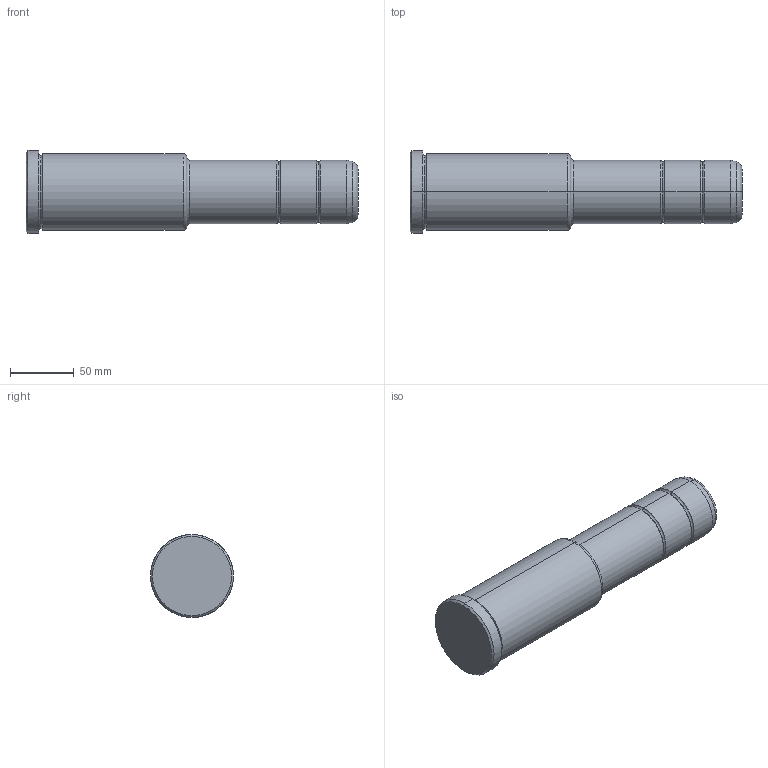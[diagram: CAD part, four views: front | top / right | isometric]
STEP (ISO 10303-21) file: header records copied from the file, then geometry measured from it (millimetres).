
FILE_DESCRIPTION(('CATIA V5 STEP Exchange'),'2;1');
FILE_NAME('C:\Users\Utente\Desktop\IO LAVORO\3D X SITO CF\X SITO\PLASTICA\351\351-50X126X260.stp','2021-11-03T19:42:58+00:00',('none'),('none'),'CATIA Version 5 Release 20 GA (IN-10)','CATIA V5 STEP AP203','none');
FILE_SCHEMA(('CONFIG_CONTROL_DESIGN'));
Length unit declared in the file: millimetre
Products named in the file (1): 351-50X126X260
Bounding box: 260 x 65 x 65 mm (x, y, z)
Volume: 619887.3 mm3; surface area: 51223 mm2
Topology: 1 solids, 1 shells, 35 faces, 98 edges, 66 vertices
Faces by surface type: torus 18, cylinder 10, cone 4, plane 3
Entity records: 1198 total; most frequent: CARTESIAN_POINT 256, ORIENTED_EDGE 196, DIRECTION 164, AXIS2_PLACEMENT_3D 116, EDGE_CURVE 98, CIRCLE 80, VERTEX_POINT 66, EDGE_LOOP 36
